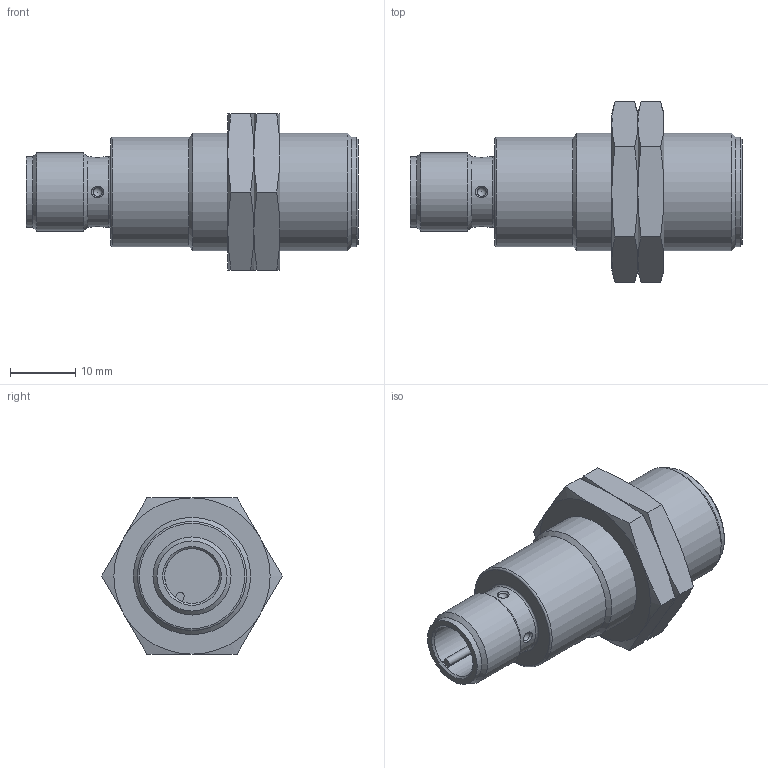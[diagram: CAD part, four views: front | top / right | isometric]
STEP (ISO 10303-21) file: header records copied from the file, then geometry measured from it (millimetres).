
FILE_DESCRIPTION( ( 'STEP AP203' ), ' ' );
FILE_NAME( 'p:/temp/worker_64/4692_3340/app_56_02016051809443866353741192d056f_000000_00_00_000000/format_1/ANT420.stp', '2016-05-18T07:44:40', ( '' ), ( '' ), ' ', 'PARTsolutions', ' ' );
FILE_SCHEMA( ( 'CONFIG_CONTROL_DESIGN' ) );
Length unit declared in the file: millimetre
Products named in the file (3): ANT420; _ANT420_part1; _DTM424_part2
Assembly tree (3 placements, depth 2):
  ANT420
    _ANT420_part1
    _DTM424_part2  x2
Bounding box: 51 x 27.71 x 24 mm (x, y, z)
Volume: 12214 mm3; surface area: 5354.1 mm2
Topology: 3 solids, 3 shells, 77 faces, 172 edges, 102 vertices
Faces by surface type: cone 34, plane 23, cylinder 10, torus 6, sphere 4
Full cylindrical faces by diameter (mm): 8.4 x1, 10.773 x2, 12 x1, 16.773 x2, 16.917 x2, 18 x1
Entity records: 1548 total; most frequent: CARTESIAN_POINT 430, DIRECTION 212, ORIENTED_EDGE 166, AXIS2_PLACEMENT_3D 99, EDGE_LOOP 84, EDGE_CURVE 83, FACE_OUTER_BOUND 68, VERTEX_POINT 65
